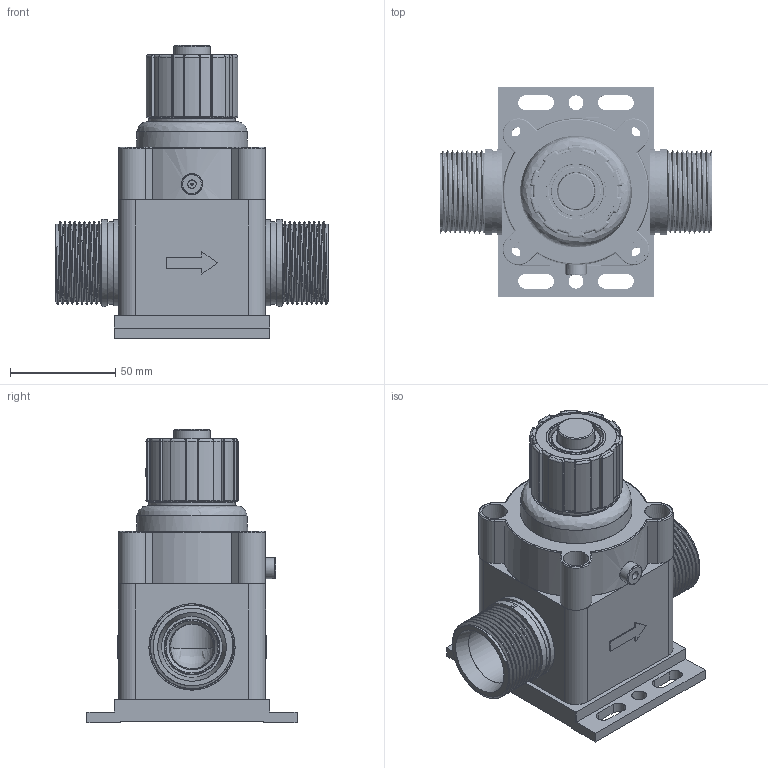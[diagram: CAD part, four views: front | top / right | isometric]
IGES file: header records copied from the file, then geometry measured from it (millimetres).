
Bounding box: 129.5 x 100 x 139.5 mm (x, y, z)
Surface area: 184441.8 mm2 (no closed solid volume)
Topology: 0 solids, 0 shells, 1319 faces, 9138 edges, 8994 vertices
Faces by surface type: bspline 1319
